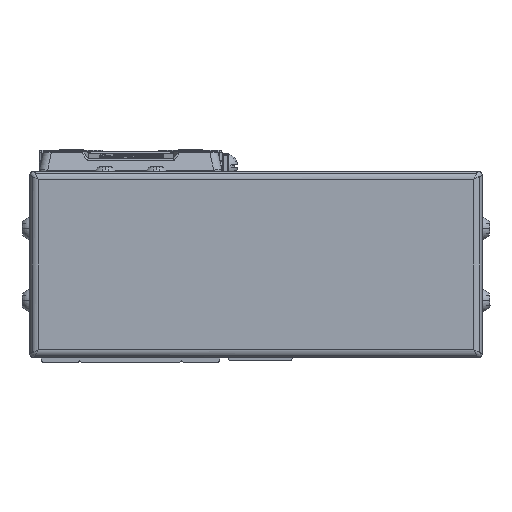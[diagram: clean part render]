
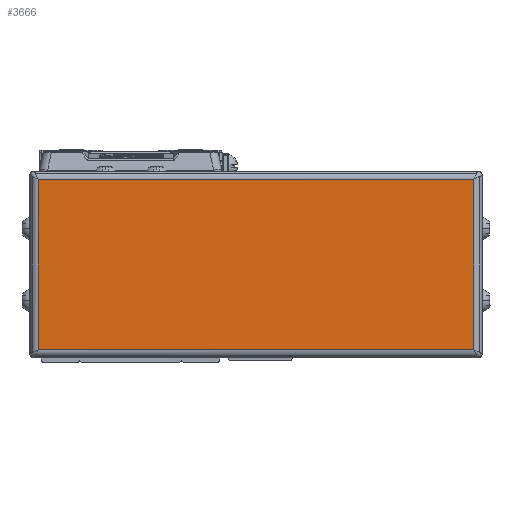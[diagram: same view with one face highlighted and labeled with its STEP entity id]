
A CAD part, left-side view. The second image highlights one B-rep face of the part: STEP entity #3666.
In plain terms, the highlighted planar face has unit normal (-1, 0, 0).
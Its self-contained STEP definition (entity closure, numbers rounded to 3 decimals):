
#3666=ADVANCED_FACE('',(#9044),#9045,.T.);
#9044=FACE_OUTER_BOUND('',#17613,.T.);
#9045=PLANE('',#17614);
#17613=EDGE_LOOP('',(#29930,#29931,#29932,#29933));
#17614=AXIS2_PLACEMENT_3D('',#29934,#29935,#29936);
#29930=ORIENTED_EDGE('',*,*,#49272,.F.);
#29931=ORIENTED_EDGE('',*,*,#49273,.F.);
#29932=ORIENTED_EDGE('',*,*,#47095,.F.);
#29933=ORIENTED_EDGE('',*,*,#49274,.F.);
#29934=CARTESIAN_POINT('',(-48.,-29.5,-4.));
#29935=DIRECTION('',(-1.0,0.,0.));
#29936=DIRECTION('',(0.,0.,1.0));
#47095=EDGE_CURVE('',#55883,#55885,#55886,.T.);
#49272=EDGE_CURVE('',#59592,#59593,#59594,.T.);
#49273=EDGE_CURVE('',#55885,#59592,#59595,.T.);
#49274=EDGE_CURVE('',#59593,#55883,#59596,.T.);
#55883=VERTEX_POINT('',#68488);
#55885=VERTEX_POINT('',#68490);
#55886=LINE('',#68491,#68492);
#59592=VERTEX_POINT('',#73925);
#59593=VERTEX_POINT('',#73926);
#59594=LINE('',#73927,#73928);
#59595=LINE('',#73929,#73930);
#59596=LINE('',#73931,#73932);
#68488=CARTESIAN_POINT('',(-48.,-80.7,-24.));
#68490=CARTESIAN_POINT('',(-48.,21.7,-24.));
#68491=CARTESIAN_POINT('',(-48.,-29.5,-24.));
#68492=VECTOR('',#85084,10.0);
#73925=CARTESIAN_POINT('',(-48.,21.7,16.));
#73926=CARTESIAN_POINT('',(-48.,-80.7,16.));
#73927=CARTESIAN_POINT('',(-48.,-29.5,16.));
#73928=VECTOR('',#87998,10.0);
#73929=CARTESIAN_POINT('',(-48.,21.7,-4.));
#73930=VECTOR('',#87999,10.0);
#73931=CARTESIAN_POINT('',(-48.,-80.7,-4.));
#73932=VECTOR('',#88000,10.0);
#85084=DIRECTION('',(0.,1.0,0.));
#87998=DIRECTION('',(0.,-1.0,0.));
#87999=DIRECTION('',(0.,0.,1.0));
#88000=DIRECTION('',(0.,0.,-1.0));
